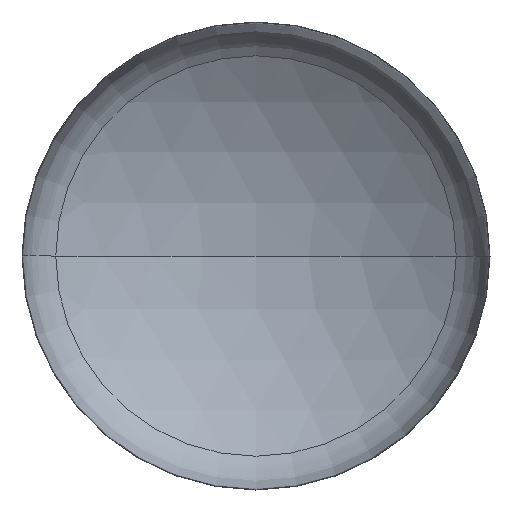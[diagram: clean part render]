
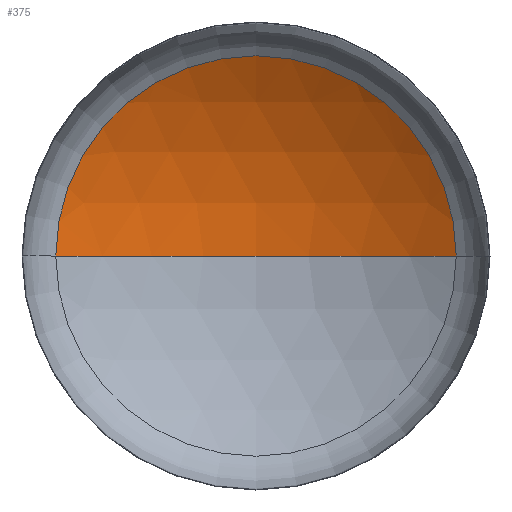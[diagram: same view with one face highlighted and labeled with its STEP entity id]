
A CAD part, front view. The second image highlights one B-rep face of the part: STEP entity #375.
In plain terms, the highlighted spherical face has radius 2560 mm.
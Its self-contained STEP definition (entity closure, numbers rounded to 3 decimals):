
#27 = CARTESIAN_POINT ( 'NONE',  ( 0., -1729.129, 0. ) ) ;
#57 = ORIENTED_EDGE ( 'NONE', *, *, #340, .T. ) ;
#76 = DIRECTION ( 'NONE',  ( 0., 0., -1. ) ) ;
#81 = VERTEX_POINT ( 'NONE', #197 ) ;
#95 = VERTEX_POINT ( 'NONE', #278 ) ;
#105 = ORIENTED_EDGE ( 'NONE', *, *, #323, .F. ) ;
#121 = SPHERICAL_SURFACE ( 'NONE', #296, 2560. ) ;
#126 = AXIS2_PLACEMENT_3D ( 'NONE', #290, #285, #284 ) ;
#147 = AXIS2_PLACEMENT_3D ( 'NONE', #154, #159, #158 ) ;
#154 = CARTESIAN_POINT ( 'NONE',  ( 0., 434.045, 0. ) ) ;
#157 = EDGE_LOOP ( 'NONE', ( #105, #217, #57 ) ) ;
#158 = DIRECTION ( 'NONE',  ( 1., 0., 0. ) ) ;
#159 = DIRECTION ( 'NONE',  ( 0., -1., 0. ) ) ;
#172 = CARTESIAN_POINT ( 'NONE',  ( 0., -1729.129, 0. ) ) ;
#194 = DIRECTION ( 'NONE',  ( -1., 0., 0. ) ) ;
#197 = CARTESIAN_POINT ( 'NONE',  ( -1369.043, 434.045, 0. ) ) ;
#216 = VERTEX_POINT ( 'NONE', #367 ) ;
#217 = ORIENTED_EDGE ( 'NONE', *, *, #314, .T. ) ;
#238 = DIRECTION ( 'NONE',  ( 0., 0., -1. ) ) ;
#278 = CARTESIAN_POINT ( 'NONE',  ( 0., 830.871, 0. ) ) ;
#282 = DIRECTION ( 'NONE',  ( -1., 0., 0. ) ) ;
#284 = DIRECTION ( 'NONE',  ( 1., 0., 0. ) ) ;
#285 = DIRECTION ( 'NONE',  ( 0., 0., 1. ) ) ;
#290 = CARTESIAN_POINT ( 'NONE',  ( 0., -1729.129, 0. ) ) ;
#296 = AXIS2_PLACEMENT_3D ( 'NONE', #172, #238, #194 ) ;
#303 = CIRCLE ( 'NONE', #147, 1369.043 ) ;
#311 = CIRCLE ( 'NONE', #126, 2560. ) ;
#314 = EDGE_CURVE ( 'NONE', #95, #216, #377, .T. ) ;
#323 = EDGE_CURVE ( 'NONE', #95, #81, #311, .T. ) ;
#340 = EDGE_CURVE ( 'NONE', #216, #81, #303, .T. ) ;
#342 = AXIS2_PLACEMENT_3D ( 'NONE', #27, #76, #282 ) ;
#364 = FACE_OUTER_BOUND ( 'NONE', #157, .T. ) ;
#367 = CARTESIAN_POINT ( 'NONE',  ( 1369.043, 434.045, 0. ) ) ;
#375 = ADVANCED_FACE ( 'NONE', ( #364 ), #121, .F. ) ;
#377 = CIRCLE ( 'NONE', #342, 2560. ) ;
